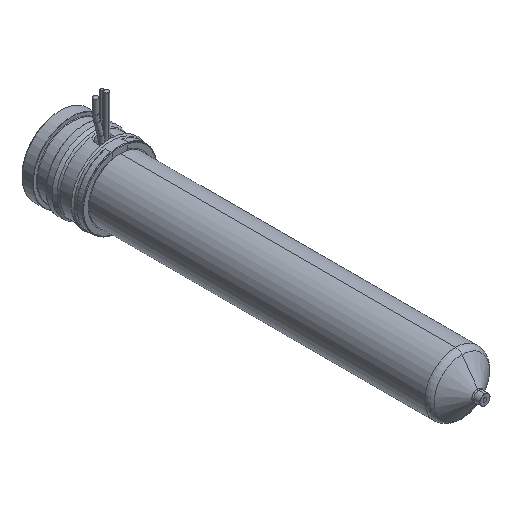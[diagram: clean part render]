
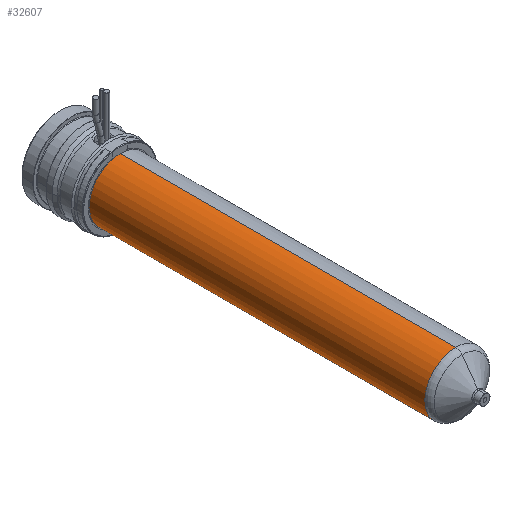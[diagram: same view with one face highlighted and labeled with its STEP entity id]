
A CAD part, isometric view. The second image highlights one B-rep face of the part: STEP entity #32607.
In plain terms, the highlighted cylindrical face has radius 12 mm (diameter 24 mm), a partial arc.
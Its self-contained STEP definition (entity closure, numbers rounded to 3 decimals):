
#32252=CARTESIAN_POINT('',(0.,-24.,0.));
#32253=DIRECTION('',(0.,1.,0.));
#32254=DIRECTION('',(0.,0.,-1.));
#32255=AXIS2_PLACEMENT_3D('',#32252,#32253,#32254);
#32260=DIRECTION('',(0.,1.,0.));
#32261=VECTOR('',#32260,130.671);
#32262=CARTESIAN_POINT('',(0.,-154.671,12.));
#32263=LINE('',#32262,#32261);
#32275=DIRECTION('',(0.,1.,0.));
#32276=VECTOR('',#32275,130.671);
#32277=CARTESIAN_POINT('',(0.,-154.671,-12.));
#32278=LINE('',#32277,#32276);
#32306=CARTESIAN_POINT('',(0.,-154.671,0.));
#32307=DIRECTION('',(0.,-1.,0.));
#32308=DIRECTION('',(0.,0.,1.));
#32309=AXIS2_PLACEMENT_3D('',#32306,#32307,#32308);
#32496=CARTESIAN_POINT('',(0.,-154.671,12.));
#32497=CARTESIAN_POINT('',(0.,-24.,12.));
#32498=VERTEX_POINT('',#32496);
#32499=VERTEX_POINT('',#32497);
#32504=CARTESIAN_POINT('',(0.,-154.671,-12.));
#32505=CARTESIAN_POINT('',(0.,-24.,-12.));
#32506=VERTEX_POINT('',#32504);
#32507=VERTEX_POINT('',#32505);
#32593=CARTESIAN_POINT('',(0.,-12.7,0.));
#32594=DIRECTION('',(0.,-1.,0.));
#32595=DIRECTION('',(0.,0.,1.));
#32596=AXIS2_PLACEMENT_3D('',#32593,#32594,#32595);
#32597=CYLINDRICAL_SURFACE('',#32596,12.);
#32599=ORIENTED_EDGE('',*,*,#32598,.F.);
#32601=ORIENTED_EDGE('',*,*,#32600,.T.);
#32603=ORIENTED_EDGE('',*,*,#32602,.T.);
#32604=ORIENTED_EDGE('',*,*,#32586,.T.);
#32605=EDGE_LOOP('',(#32599,#32601,#32603,#32604));
#32606=FACE_OUTER_BOUND('',#32605,.F.);
#32607=ADVANCED_FACE('',(#32606),#32597,.T.);
#32256=CIRCLE('',#32255,12.);
#32310=CIRCLE('',#32309,12.);
#32586=EDGE_CURVE('',#32507,#32499,#32256,.T.);
#32598=EDGE_CURVE('',#32498,#32499,#32263,.T.);
#32600=EDGE_CURVE('',#32498,#32506,#32310,.T.);
#32602=EDGE_CURVE('',#32506,#32507,#32278,.T.);
